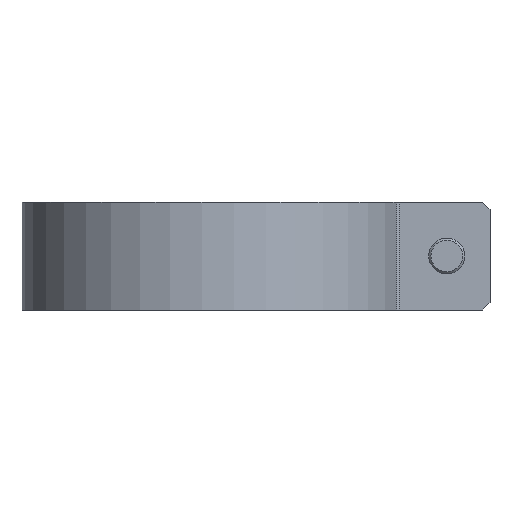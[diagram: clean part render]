
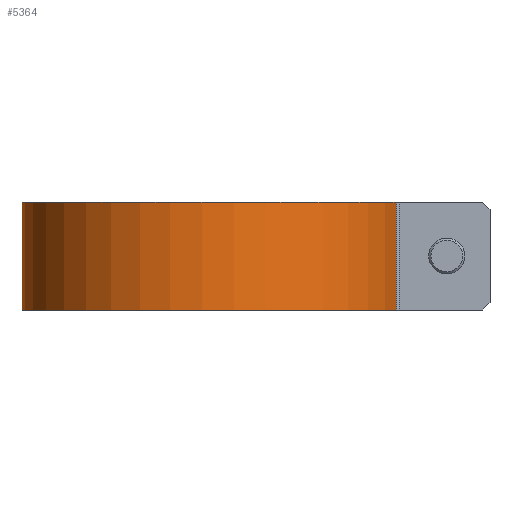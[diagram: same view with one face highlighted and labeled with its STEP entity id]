
A CAD part, front view. The second image highlights one B-rep face of the part: STEP entity #5364.
In plain terms, the highlighted cylindrical face has radius 26.5 mm (diameter 53 mm), a partial arc.
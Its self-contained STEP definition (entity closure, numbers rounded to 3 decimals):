
#796 = DIRECTION ( 'NONE',  ( 0., 0., 1. ) ) ;
#1684 = DIRECTION ( 'NONE',  ( -1., 0., 0. ) ) ;
#1818 = EDGE_CURVE ( 'NONE', #14496, #18306, #11919, .T. ) ;
#1991 = VERTEX_POINT ( 'NONE', #2522 ) ;
#2522 = CARTESIAN_POINT ( 'NONE',  ( -26.5, 0., 0. ) ) ;
#2631 = LINE ( 'NONE', #15430, #13547 ) ;
#3279 = EDGE_CURVE ( 'NONE', #14496, #1991, #10123, .T. ) ;
#3280 = ORIENTED_EDGE ( 'NONE', *, *, #3279, .T. ) ;
#3599 = DIRECTION ( 'NONE',  ( 0., 0., 1. ) ) ;
#3902 = CARTESIAN_POINT ( 'NONE',  ( -26.5, 0., 15. ) ) ;
#4053 = DIRECTION ( 'NONE',  ( 0., 0., 1. ) ) ;
#4253 = CYLINDRICAL_SURFACE ( 'NONE', #17761, 26.5 ) ;
#4702 = FACE_OUTER_BOUND ( 'NONE', #10938, .T. ) ;
#5364 = ADVANCED_FACE ( 'NONE', ( #4702 ), #4253, .T. ) ;
#6819 = VECTOR ( 'NONE', #7382, 1000. ) ;
#7382 = DIRECTION ( 'NONE',  ( 0., 0., -1. ) ) ;
#7627 = EDGE_CURVE ( 'NONE', #1991, #10408, #14991, .T. ) ;
#7977 = ORIENTED_EDGE ( 'NONE', *, *, #11901, .T. ) ;
#9378 = CARTESIAN_POINT ( 'NONE',  ( 0., 0., 0. ) ) ;
#9717 = CARTESIAN_POINT ( 'NONE',  ( 25.457, -7.361, 0. ) ) ;
#10123 = LINE ( 'NONE', #15867, #6819 ) ;
#10408 = VERTEX_POINT ( 'NONE', #9717 ) ;
#10800 = DIRECTION ( 'NONE',  ( 1., 0., 0. ) ) ;
#10938 = EDGE_LOOP ( 'NONE', ( #18372, #3280, #11893, #7977 ) ) ;
#11280 = CARTESIAN_POINT ( 'NONE',  ( 25.457, -7.361, 15. ) ) ;
#11893 = ORIENTED_EDGE ( 'NONE', *, *, #7627, .T. ) ;
#11901 = EDGE_CURVE ( 'NONE', #10408, #18306, #2631, .T. ) ;
#11919 = CIRCLE ( 'NONE', #16208, 26.5 ) ;
#12140 = CARTESIAN_POINT ( 'NONE',  ( 0., 0., 15. ) ) ;
#13036 = DIRECTION ( 'NONE',  ( 0., 0., -1. ) ) ;
#13536 = DIRECTION ( 'NONE',  ( 1., 0., 0. ) ) ;
#13547 = VECTOR ( 'NONE', #4053, 1000. ) ;
#14447 = AXIS2_PLACEMENT_3D ( 'NONE', #9378, #796, #10800 ) ;
#14496 = VERTEX_POINT ( 'NONE', #3902 ) ;
#14991 = CIRCLE ( 'NONE', #14447, 26.5 ) ;
#15430 = CARTESIAN_POINT ( 'NONE',  ( 25.457, -7.361, 15. ) ) ;
#15867 = CARTESIAN_POINT ( 'NONE',  ( -26.5, 0., 15. ) ) ;
#16208 = AXIS2_PLACEMENT_3D ( 'NONE', #12140, #3599, #13536 ) ;
#17336 = CARTESIAN_POINT ( 'NONE',  ( 0., 0., 15. ) ) ;
#17761 = AXIS2_PLACEMENT_3D ( 'NONE', #17336, #13036, #1684 ) ;
#18306 = VERTEX_POINT ( 'NONE', #11280 ) ;
#18372 = ORIENTED_EDGE ( 'NONE', *, *, #1818, .F. ) ;
